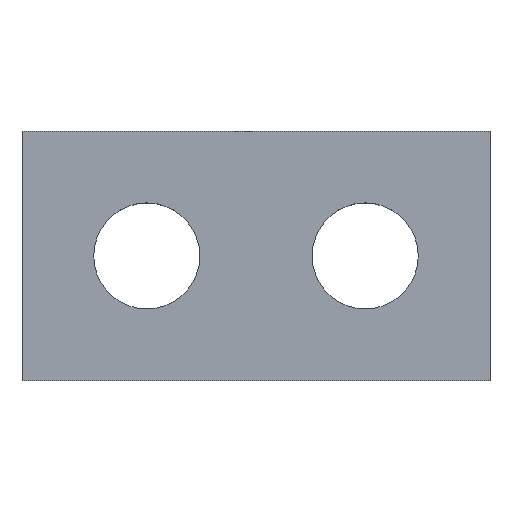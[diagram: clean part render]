
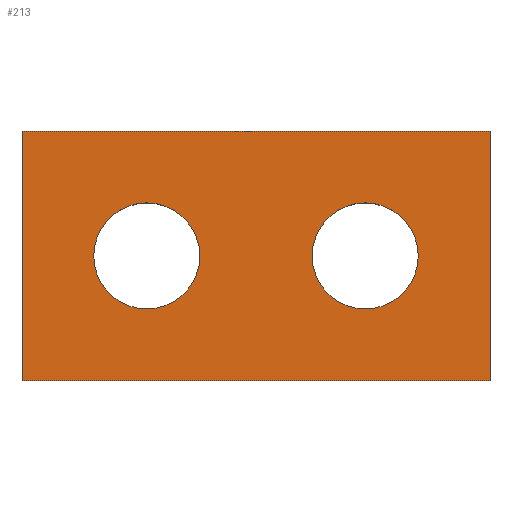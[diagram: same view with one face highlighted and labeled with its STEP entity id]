
A CAD part, top view. The second image highlights one B-rep face of the part: STEP entity #213.
In plain terms, the highlighted planar face has unit normal (0, 0, 1).
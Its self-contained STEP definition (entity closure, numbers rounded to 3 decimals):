
#24 = VERTEX_POINT('',#25);
#25 = CARTESIAN_POINT('',(16.,-4.,5.7));
#32 = PLANE('',#33);
#33 = AXIS2_PLACEMENT_3D('',#34,#35,#36);
#34 = CARTESIAN_POINT('',(16.,-4.,3.2));
#35 = DIRECTION('',(1.,0.,-0.));
#36 = DIRECTION('',(0.,0.,1.));
#44 = PLANE('',#45);
#45 = AXIS2_PLACEMENT_3D('',#46,#47,#48);
#46 = CARTESIAN_POINT('',(16.,-4.,3.2));
#47 = DIRECTION('',(-0.,1.,0.));
#48 = DIRECTION('',(0.,0.,1.));
#85 = VERTEX_POINT('',#86);
#86 = CARTESIAN_POINT('',(16.,4.,5.7));
#100 = PLANE('',#101);
#101 = AXIS2_PLACEMENT_3D('',#102,#103,#104);
#102 = CARTESIAN_POINT('',(16.,4.,3.2));
#103 = DIRECTION('',(-0.,1.,0.));
#104 = DIRECTION('',(0.,0.,1.));
#112 = EDGE_CURVE('',#24,#85,#113,.T.);
#113 = SURFACE_CURVE('',#114,(#118,#125),.PCURVE_S1.);
#114 = LINE('',#115,#116);
#115 = CARTESIAN_POINT('',(16.,-4.,5.7));
#116 = VECTOR('',#117,1.);
#117 = DIRECTION('',(-0.,1.,0.));
#118 = PCURVE('',#32,#119);
#119 = DEFINITIONAL_REPRESENTATION('',(#120),#124);
#120 = LINE('',#121,#122);
#121 = CARTESIAN_POINT('',(2.5,0.));
#122 = VECTOR('',#123,1.);
#123 = DIRECTION('',(0.,-1.));
#124 = ( GEOMETRIC_REPRESENTATION_CONTEXT(2) 
PARAMETRIC_REPRESENTATION_CONTEXT() REPRESENTATION_CONTEXT('2D SPACE',''
  ) );
#125 = PCURVE('',#126,#131);
#126 = PLANE('',#127);
#127 = AXIS2_PLACEMENT_3D('',#128,#129,#130);
#128 = CARTESIAN_POINT('',(16.,-4.,5.7));
#129 = DIRECTION('',(0.,0.,1.));
#130 = DIRECTION('',(1.,0.,-0.));
#131 = DEFINITIONAL_REPRESENTATION('',(#132),#136);
#132 = LINE('',#133,#134);
#133 = CARTESIAN_POINT('',(0.,0.));
#134 = VECTOR('',#135,1.);
#135 = DIRECTION('',(0.,1.));
#136 = ( GEOMETRIC_REPRESENTATION_CONTEXT(2) 
PARAMETRIC_REPRESENTATION_CONTEXT() REPRESENTATION_CONTEXT('2D SPACE',''
  ) );
#165 = EDGE_CURVE('',#24,#166,#168,.T.);
#166 = VERTEX_POINT('',#167);
#167 = CARTESIAN_POINT('',(31.,-4.,5.7));
#168 = SURFACE_CURVE('',#169,(#173,#180),.PCURVE_S1.);
#169 = LINE('',#170,#171);
#170 = CARTESIAN_POINT('',(16.,-4.,5.7));
#171 = VECTOR('',#172,1.);
#172 = DIRECTION('',(1.,0.,-0.));
#173 = PCURVE('',#44,#174);
#174 = DEFINITIONAL_REPRESENTATION('',(#175),#179);
#175 = LINE('',#176,#177);
#176 = CARTESIAN_POINT('',(2.5,0.));
#177 = VECTOR('',#178,1.);
#178 = DIRECTION('',(0.,1.));
#179 = ( GEOMETRIC_REPRESENTATION_CONTEXT(2) 
PARAMETRIC_REPRESENTATION_CONTEXT() REPRESENTATION_CONTEXT('2D SPACE',''
  ) );
#180 = PCURVE('',#126,#181);
#181 = DEFINITIONAL_REPRESENTATION('',(#182),#186);
#182 = LINE('',#183,#184);
#183 = CARTESIAN_POINT('',(0.,0.));
#184 = VECTOR('',#185,1.);
#185 = DIRECTION('',(1.,0.));
#186 = ( GEOMETRIC_REPRESENTATION_CONTEXT(2) 
PARAMETRIC_REPRESENTATION_CONTEXT() REPRESENTATION_CONTEXT('2D SPACE',''
  ) );
#202 = PLANE('',#203);
#203 = AXIS2_PLACEMENT_3D('',#204,#205,#206);
#204 = CARTESIAN_POINT('',(31.,-4.,3.2));
#205 = DIRECTION('',(1.,0.,-0.));
#206 = DIRECTION('',(0.,0.,1.));
#213 = ADVANCED_FACE('',(#214,#262,#293),#126,.T.);
#214 = FACE_BOUND('',#215,.T.);
#215 = EDGE_LOOP('',(#216,#217,#218,#241));
#216 = ORIENTED_EDGE('',*,*,#112,.F.);
#217 = ORIENTED_EDGE('',*,*,#165,.T.);
#218 = ORIENTED_EDGE('',*,*,#219,.T.);
#219 = EDGE_CURVE('',#166,#220,#222,.T.);
#220 = VERTEX_POINT('',#221);
#221 = CARTESIAN_POINT('',(31.,4.,5.7));
#222 = SURFACE_CURVE('',#223,(#227,#234),.PCURVE_S1.);
#223 = LINE('',#224,#225);
#224 = CARTESIAN_POINT('',(31.,-4.,5.7));
#225 = VECTOR('',#226,1.);
#226 = DIRECTION('',(-0.,1.,0.));
#227 = PCURVE('',#126,#228);
#228 = DEFINITIONAL_REPRESENTATION('',(#229),#233);
#229 = LINE('',#230,#231);
#230 = CARTESIAN_POINT('',(15.,0.));
#231 = VECTOR('',#232,1.);
#232 = DIRECTION('',(0.,1.));
#233 = ( GEOMETRIC_REPRESENTATION_CONTEXT(2) 
PARAMETRIC_REPRESENTATION_CONTEXT() REPRESENTATION_CONTEXT('2D SPACE',''
  ) );
#234 = PCURVE('',#202,#235);
#235 = DEFINITIONAL_REPRESENTATION('',(#236),#240);
#236 = LINE('',#237,#238);
#237 = CARTESIAN_POINT('',(2.5,0.));
#238 = VECTOR('',#239,1.);
#239 = DIRECTION('',(0.,-1.));
#240 = ( GEOMETRIC_REPRESENTATION_CONTEXT(2) 
PARAMETRIC_REPRESENTATION_CONTEXT() REPRESENTATION_CONTEXT('2D SPACE',''
  ) );
#241 = ORIENTED_EDGE('',*,*,#242,.F.);
#242 = EDGE_CURVE('',#85,#220,#243,.T.);
#243 = SURFACE_CURVE('',#244,(#248,#255),.PCURVE_S1.);
#244 = LINE('',#245,#246);
#245 = CARTESIAN_POINT('',(16.,4.,5.7));
#246 = VECTOR('',#247,1.);
#247 = DIRECTION('',(1.,0.,-0.));
#248 = PCURVE('',#126,#249);
#249 = DEFINITIONAL_REPRESENTATION('',(#250),#254);
#250 = LINE('',#251,#252);
#251 = CARTESIAN_POINT('',(0.,8.));
#252 = VECTOR('',#253,1.);
#253 = DIRECTION('',(1.,0.));
#254 = ( GEOMETRIC_REPRESENTATION_CONTEXT(2) 
PARAMETRIC_REPRESENTATION_CONTEXT() REPRESENTATION_CONTEXT('2D SPACE',''
  ) );
#255 = PCURVE('',#100,#256);
#256 = DEFINITIONAL_REPRESENTATION('',(#257),#261);
#257 = LINE('',#258,#259);
#258 = CARTESIAN_POINT('',(2.5,0.));
#259 = VECTOR('',#260,1.);
#260 = DIRECTION('',(0.,1.));
#261 = ( GEOMETRIC_REPRESENTATION_CONTEXT(2) 
PARAMETRIC_REPRESENTATION_CONTEXT() REPRESENTATION_CONTEXT('2D SPACE',''
  ) );
#262 = FACE_BOUND('',#263,.T.);
#263 = EDGE_LOOP('',(#264));
#264 = ORIENTED_EDGE('',*,*,#265,.F.);
#265 = EDGE_CURVE('',#266,#266,#268,.T.);
#266 = VERTEX_POINT('',#267);
#267 = CARTESIAN_POINT('',(21.7,0.,5.7));
#268 = SURFACE_CURVE('',#269,(#274,#281),.PCURVE_S1.);
#269 = CIRCLE('',#270,1.7);
#270 = AXIS2_PLACEMENT_3D('',#271,#272,#273);
#271 = CARTESIAN_POINT('',(20.,0.,5.7));
#272 = DIRECTION('',(0.,0.,1.));
#273 = DIRECTION('',(1.,0.,-0.));
#274 = PCURVE('',#126,#275);
#275 = DEFINITIONAL_REPRESENTATION('',(#276),#280);
#276 = CIRCLE('',#277,1.7);
#277 = AXIS2_PLACEMENT_2D('',#278,#279);
#278 = CARTESIAN_POINT('',(4.,4.));
#279 = DIRECTION('',(1.,0.));
#280 = ( GEOMETRIC_REPRESENTATION_CONTEXT(2) 
PARAMETRIC_REPRESENTATION_CONTEXT() REPRESENTATION_CONTEXT('2D SPACE',''
  ) );
#281 = PCURVE('',#282,#287);
#282 = CYLINDRICAL_SURFACE('',#283,1.7);
#283 = AXIS2_PLACEMENT_3D('',#284,#285,#286);
#284 = CARTESIAN_POINT('',(20.,0.,0.6));
#285 = DIRECTION('',(0.,0.,1.));
#286 = DIRECTION('',(1.,0.,-0.));
#287 = DEFINITIONAL_REPRESENTATION('',(#288),#292);
#288 = LINE('',#289,#290);
#289 = CARTESIAN_POINT('',(0.,5.1));
#290 = VECTOR('',#291,1.);
#291 = DIRECTION('',(1.,0.));
#292 = ( GEOMETRIC_REPRESENTATION_CONTEXT(2) 
PARAMETRIC_REPRESENTATION_CONTEXT() REPRESENTATION_CONTEXT('2D SPACE',''
  ) );
#293 = FACE_BOUND('',#294,.T.);
#294 = EDGE_LOOP('',(#295));
#295 = ORIENTED_EDGE('',*,*,#296,.F.);
#296 = EDGE_CURVE('',#297,#297,#299,.T.);
#297 = VERTEX_POINT('',#298);
#298 = CARTESIAN_POINT('',(28.7,0.,5.7));
#299 = SURFACE_CURVE('',#300,(#305,#312),.PCURVE_S1.);
#300 = CIRCLE('',#301,1.7);
#301 = AXIS2_PLACEMENT_3D('',#302,#303,#304);
#302 = CARTESIAN_POINT('',(27.,0.,5.7));
#303 = DIRECTION('',(0.,0.,1.));
#304 = DIRECTION('',(1.,0.,-0.));
#305 = PCURVE('',#126,#306);
#306 = DEFINITIONAL_REPRESENTATION('',(#307),#311);
#307 = CIRCLE('',#308,1.7);
#308 = AXIS2_PLACEMENT_2D('',#309,#310);
#309 = CARTESIAN_POINT('',(11.,4.));
#310 = DIRECTION('',(1.,0.));
#311 = ( GEOMETRIC_REPRESENTATION_CONTEXT(2) 
PARAMETRIC_REPRESENTATION_CONTEXT() REPRESENTATION_CONTEXT('2D SPACE',''
  ) );
#312 = PCURVE('',#313,#318);
#313 = CYLINDRICAL_SURFACE('',#314,1.7);
#314 = AXIS2_PLACEMENT_3D('',#315,#316,#317);
#315 = CARTESIAN_POINT('',(27.,0.,0.6));
#316 = DIRECTION('',(0.,0.,1.));
#317 = DIRECTION('',(1.,0.,-0.));
#318 = DEFINITIONAL_REPRESENTATION('',(#319),#323);
#319 = LINE('',#320,#321);
#320 = CARTESIAN_POINT('',(0.,5.1));
#321 = VECTOR('',#322,1.);
#322 = DIRECTION('',(1.,0.));
#323 = ( GEOMETRIC_REPRESENTATION_CONTEXT(2) 
PARAMETRIC_REPRESENTATION_CONTEXT() REPRESENTATION_CONTEXT('2D SPACE',''
  ) );
